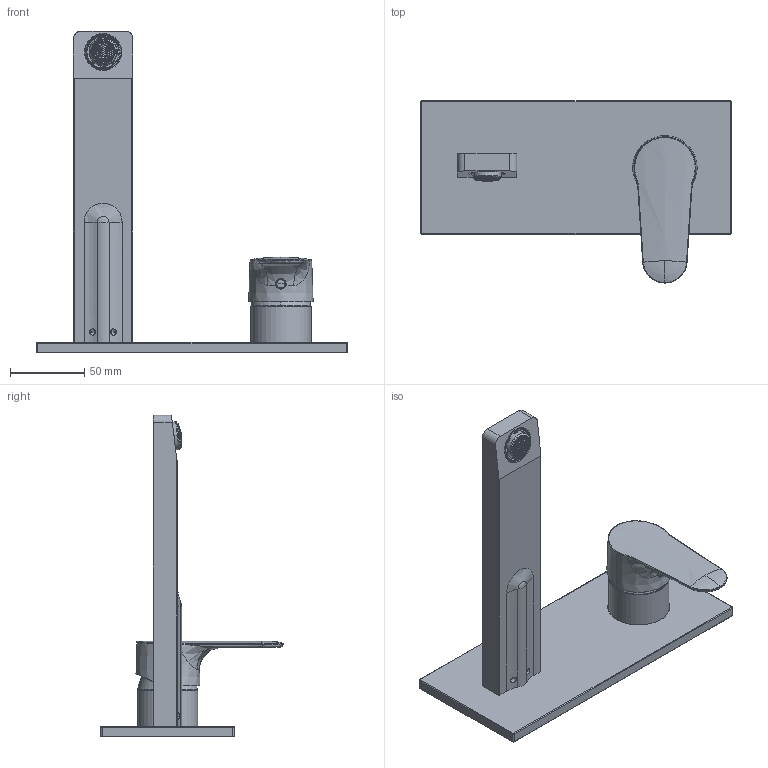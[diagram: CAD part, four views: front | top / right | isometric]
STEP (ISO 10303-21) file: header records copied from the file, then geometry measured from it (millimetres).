
FILE_DESCRIPTION((''),'2;1');
FILE_NAME('F3830LX5_FILE_3D','2017-11-14T',('ivanv'),(''),'CREO PARAMETRIC BY PTC INC, 2016260','CREO PARAMETRIC BY PTC INC, 2016260','');
FILE_SCHEMA(('CONFIG_CONTROL_DESIGN'));
Products named in the file (1): F3830LX5_FILE_3D
Bounding box: 210 x 123 x 217 mm (x, y, z)
Volume: 203802.2 mm3; surface area: 103203.6 mm2
Topology: 3 solids, 3 shells, 6596 faces, 19033 edges, 12582 vertices
Faces by surface type: plane 4994, torus 656, cylinder 385, bspline 308, cone 151, sphere 53, extrusion 49
Entity records: 260908 total; most frequent: CARTESIAN_POINT 101833, ORIENTED_EDGE 38040, DIRECTION 25279, EDGE_CURVE 19020, VERTEX_POINT 12582, B_SPLINE_CURVE_WITH_KNOTS 8746, AXIS2_PLACEMENT_3D 8668, VECTOR 7943
